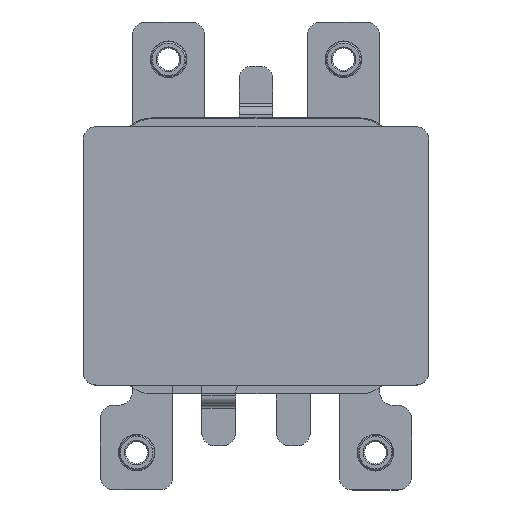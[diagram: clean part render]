
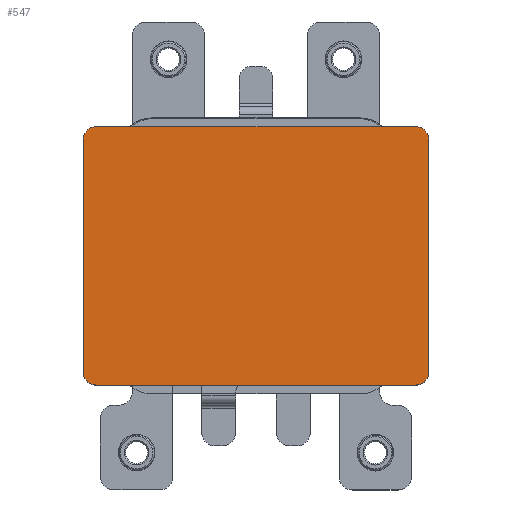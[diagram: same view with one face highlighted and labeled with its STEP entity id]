
A CAD part, top view. The second image highlights one B-rep face of the part: STEP entity #547.
In plain terms, the highlighted planar face has unit normal (0, 0, 1) as drawn and (0, 0, -1) by its records, which use the part's own axes.
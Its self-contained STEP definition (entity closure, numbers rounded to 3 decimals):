
#547 = ADVANCED_FACE( '', ( #1038 ), #1039, .F. );
#1038 = FACE_OUTER_BOUND( '', #1560, .T. );
#1039 = PLANE( '', #1561 );
#1560 = EDGE_LOOP( '', ( #2441, #2442, #2443, #2444, #2445, #2446, #2447, #2448 ) );
#1561 = AXIS2_PLACEMENT_3D( '', #2449, #2450, #2451 );
#2441 = ORIENTED_EDGE( '', *, *, #3621, .F. );
#2442 = ORIENTED_EDGE( '', *, *, #3496, .T. );
#2443 = ORIENTED_EDGE( '', *, *, #3622, .F. );
#2444 = ORIENTED_EDGE( '', *, *, #3623, .T. );
#2445 = ORIENTED_EDGE( '', *, *, #3475, .T. );
#2446 = ORIENTED_EDGE( '', *, *, #3624, .T. );
#2447 = ORIENTED_EDGE( '', *, *, #3625, .T. );
#2448 = ORIENTED_EDGE( '', *, *, #3401, .T. );
#2449 = CARTESIAN_POINT( '', ( -25.5, -19.05, 0. ) );
#2450 = DIRECTION( '', ( 0., 0., 1. ) );
#2451 = DIRECTION( '', ( 1., 0., 0. ) );
#3401 = EDGE_CURVE( '', #4040, #4041, #4042, .F. );
#3475 = EDGE_CURVE( '', #4160, #4158, #4161, .T. );
#3496 = EDGE_CURVE( '', #4195, #4196, #4197, .F. );
#3621 = EDGE_CURVE( '', #4195, #4041, #4388, .T. );
#3622 = EDGE_CURVE( '', #4389, #4196, #4390, .T. );
#3623 = EDGE_CURVE( '', #4389, #4160, #4391, .F. );
#3624 = EDGE_CURVE( '', #4158, #4392, #4393, .F. );
#3625 = EDGE_CURVE( '', #4392, #4040, #4394, .T. );
#4040 = VERTEX_POINT( '', #4922 );
#4041 = VERTEX_POINT( '', #4923 );
#4042 = CIRCLE( '', #4924, 2. );
#4158 = VERTEX_POINT( '', #5085 );
#4160 = VERTEX_POINT( '', #5088 );
#4161 = LINE( '', #5089, #5090 );
#4195 = VERTEX_POINT( '', #5131 );
#4196 = VERTEX_POINT( '', #5132 );
#4197 = CIRCLE( '', #5133, 2. );
#4388 = LINE( '', #5379, #5380 );
#4389 = VERTEX_POINT( '', #5381 );
#4390 = LINE( '', #5382, #5383 );
#4391 = CIRCLE( '', #5384, 2. );
#4392 = VERTEX_POINT( '', #5385 );
#4393 = CIRCLE( '', #5386, 2. );
#4394 = LINE( '', #5387, #5388 );
#4922 = CARTESIAN_POINT( '', ( 23.5, 19.05, 0. ) );
#4923 = CARTESIAN_POINT( '', ( 25.5, 17.05, 0. ) );
#4924 = AXIS2_PLACEMENT_3D( '', #5962, #5963, #5964 );
#5085 = CARTESIAN_POINT( '', ( -25.5, 17.05, 0. ) );
#5088 = CARTESIAN_POINT( '', ( -25.5, -17.05, 0. ) );
#5089 = CARTESIAN_POINT( '', ( -25.5, -19.05, 0. ) );
#5090 = VECTOR( '', #6052, 1000. );
#5131 = CARTESIAN_POINT( '', ( 25.5, -17.05, 0. ) );
#5132 = CARTESIAN_POINT( '', ( 23.5, -19.05, 0. ) );
#5133 = AXIS2_PLACEMENT_3D( '', #6087, #6088, #6089 );
#5379 = CARTESIAN_POINT( '', ( 25.5, -19.05, 0. ) );
#5380 = VECTOR( '', #6268, 1000. );
#5381 = CARTESIAN_POINT( '', ( -23.5, -19.05, 0. ) );
#5382 = CARTESIAN_POINT( '', ( -25.5, -19.05, 0. ) );
#5383 = VECTOR( '', #6269, 1000. );
#5384 = AXIS2_PLACEMENT_3D( '', #6270, #6271, #6272 );
#5385 = CARTESIAN_POINT( '', ( -23.5, 19.05, 0. ) );
#5386 = AXIS2_PLACEMENT_3D( '', #6273, #6274, #6275 );
#5387 = CARTESIAN_POINT( '', ( -25.5, 19.05, 0. ) );
#5388 = VECTOR( '', #6276, 1000. );
#5962 = CARTESIAN_POINT( '', ( 23.5, 17.05, 0. ) );
#5963 = DIRECTION( '', ( 0., 0., 1. ) );
#5964 = DIRECTION( '', ( 1., 0., 0. ) );
#6052 = DIRECTION( '', ( 0., 1., 0. ) );
#6087 = CARTESIAN_POINT( '', ( 23.5, -17.05, 0. ) );
#6088 = DIRECTION( '', ( 0., 0., 1. ) );
#6089 = DIRECTION( '', ( 1., 0., 0. ) );
#6268 = DIRECTION( '', ( 0., 1., 0. ) );
#6269 = DIRECTION( '', ( 1., 0., 0. ) );
#6270 = CARTESIAN_POINT( '', ( -23.5, -17.05, 0. ) );
#6271 = DIRECTION( '', ( 0., 0., 1. ) );
#6272 = DIRECTION( '', ( 1., 0., 0. ) );
#6273 = CARTESIAN_POINT( '', ( -23.5, 17.05, 0. ) );
#6274 = DIRECTION( '', ( 0., 0., 1. ) );
#6275 = DIRECTION( '', ( 1., 0., 0. ) );
#6276 = DIRECTION( '', ( 1., 0., 0. ) );
